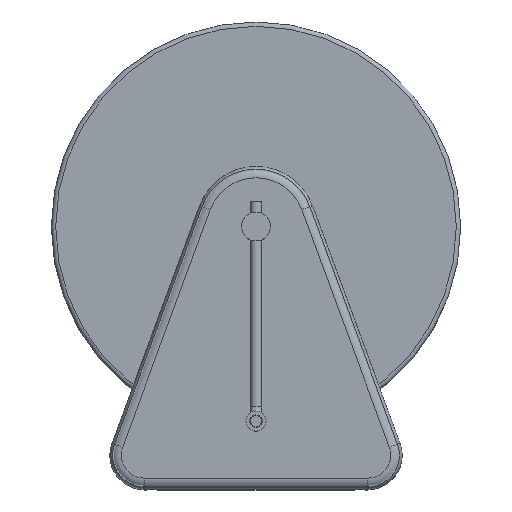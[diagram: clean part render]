
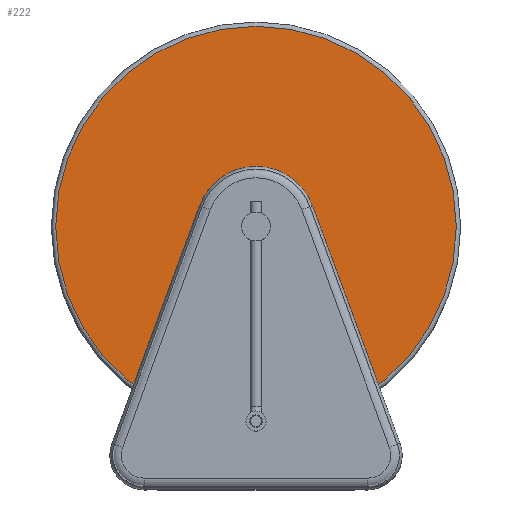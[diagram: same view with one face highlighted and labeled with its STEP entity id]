
A CAD part, top view. The second image highlights one B-rep face of the part: STEP entity #222.
In plain terms, the highlighted planar face has unit normal (0, 0, 1).
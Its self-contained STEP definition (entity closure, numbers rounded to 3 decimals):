
#222 = ADVANCED_FACE( '', ( #508, #509 ), #510, .T. );
#508 = FACE_OUTER_BOUND( '', #1647, .T. );
#509 = FACE_BOUND( '', #1648, .T. );
#510 = PLANE( '', #1649 );
#1647 = EDGE_LOOP( '', ( #2113 ) );
#1648 = EDGE_LOOP( '', ( #2114 ) );
#1649 = AXIS2_PLACEMENT_3D( '', #2115, #2116, #2117 );
#2113 = ORIENTED_EDGE( '', *, *, #2875, .T. );
#2114 = ORIENTED_EDGE( '', *, *, #2876, .T. );
#2115 = CARTESIAN_POINT( '', ( 0., 0., -54.674 ) );
#2116 = DIRECTION( '', ( 0., 0., 1. ) );
#2117 = DIRECTION( '', ( 1., 0., 0. ) );
#2875 = EDGE_CURVE( '', #3259, #3259, #3260, .T. );
#2876 = EDGE_CURVE( '', #3261, #3261, #3262, .F. );
#3259 = VERTEX_POINT( '', #4018 );
#3260 = CIRCLE( '', #4019, 220.65 );
#3261 = VERTEX_POINT( '', #4020 );
#3262 = CIRCLE( '', #4021, 15.875 );
#4018 = CARTESIAN_POINT( '', ( 220.65, 0., -54.674 ) );
#4019 = AXIS2_PLACEMENT_3D( '', #4757, #4758, #4759 );
#4020 = CARTESIAN_POINT( '', ( 15.875, 0., -54.674 ) );
#4021 = AXIS2_PLACEMENT_3D( '', #4760, #4761, #4762 );
#4757 = CARTESIAN_POINT( '', ( 0., 0., -54.674 ) );
#4758 = DIRECTION( '', ( 0., 0., 1. ) );
#4759 = DIRECTION( '', ( 1., 0., 0. ) );
#4760 = CARTESIAN_POINT( '', ( 0., 0., -54.674 ) );
#4761 = DIRECTION( '', ( 0., 0., 1. ) );
#4762 = DIRECTION( '', ( 1., 0., 0. ) );
